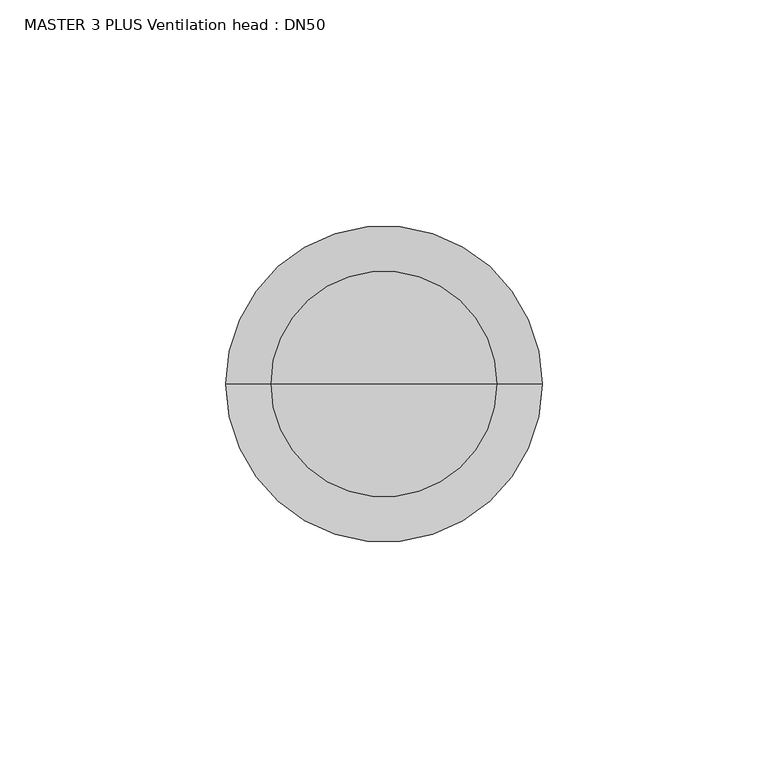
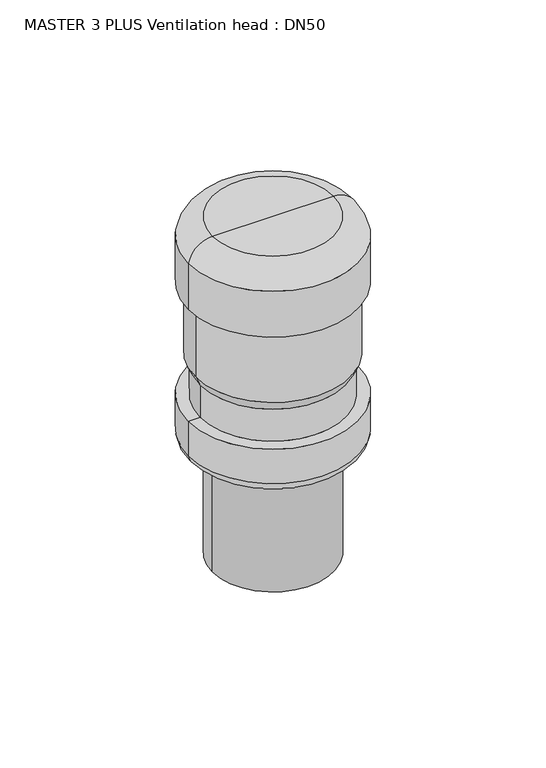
"""IFC4 building model written with IfcOpenShell, lengths in millimetres: valve geometry, MASTER 3 PLUS Ventilation head : DN50."""

from ifc_helpers import new_model, si_unit, point, frame, origin, origin_with_axes, place, context, project, spatial, polyline, circle_curve, ellipse_curve, trimmed, source, transform, mapped, element, save
from ifc_brep_helpers import plane_surface, cylinder_surface, revolved_surface, advanced_brep


def master_3_plus_ventilation_head_dn50_5158a1df(model_context):
    return source(origin(), model_context, "Body", "AdvancedBrep", [
        advanced_brep(
        [(-25.0, 0.0, 0.0), (25.0, 0.0, 0.0), (25.0, 0.0, 50.0), (-25.0, 0.0, 50.0), (25.0, 0.0, 147.0), (-25.0, 0.0, 147.0), (0.0, 0.0, 147.0), (35.0, 0.0, 138.5), (-35.0, 0.0, 138.5), (35.0, 0.0, 118.5), (-35.0, 0.0, 118.5), (32.0, 0.0, 118.5), (-32.0, 0.0, 118.5), (32.0, 0.0, 87.7890138), (-32.0, 0.0, 87.7890138), (30.0, 0.0, 83.5), (-30.0, 0.0, 83.5), (30.0, 0.0, 69.4369221), (-30.0, 0.0, 69.4369221), (35.0, 0.0, 69.4369221), (-35.0, 0.0, 69.4369221), (35.0, 0.0, 54.4), (-35.0, 0.0, 54.4), (30.6, 0.0, 50.0), (-30.6, 0.0, 50.0)],
        [
            (0, 1, circle_curve(frame((0.0, 0.0, 0.0), z_axis=(0.0, 0.0, -1.0), x_axis=(1.0, 0.0, 0.0)), 25.0)),
            (1, 0, circle_curve(frame((0.0, 0.0, 0.0), z_axis=(0.0, 0.0, -1.0), x_axis=(1.0, 0.0, 0.0)), 25.0)),
            (1, 2),
            (2, 3, circle_curve(frame((0.0, 0.0, 50.0), z_axis=(0.0, 0.0, -1.0), x_axis=(1.0, 0.0, 0.0)), 25.0)),
            (3, 0),
            (3, 2, circle_curve(frame((0.0, 0.0, 50.0), z_axis=(0.0, 0.0, -1.0), x_axis=(1.0, 0.0, 0.0)), 25.0)),
            (4, 5, circle_curve(frame((0.0, 0.0, 147.0), z_axis=(0.0, 0.0, 1.0), x_axis=(-1.0, 0.0, 0.0)), 25.0)),
            (5, 6),
            (6, 4),
            (5, 4, circle_curve(frame((0.0, 0.0, 147.0), z_axis=(0.0, 0.0, 1.0), x_axis=(-1.0, 0.0, 0.0)), 25.0)),
            (4, 7, circle_curve(frame((25.0, 0.0, 136.8676471), z_axis=(0.0, 1.0, 0.0), x_axis=(-1.0, 0.0, 0.0)), 10.1323529)),
            (7, 8, circle_curve(frame((0.0, 0.0, 138.5), z_axis=(0.0, 0.0, 1.0), x_axis=(-1.0, 0.0, 0.0)), 35.0)),
            (8, 5, circle_curve(frame((-25.0, 0.0, 136.8676471), z_axis=(0.0, 1.0, 0.0), x_axis=(1.0, 0.0, 0.0)), 10.1323529)),
            (8, 7, circle_curve(frame((0.0, 0.0, 138.5), z_axis=(0.0, 0.0, 1.0), x_axis=(-1.0, 0.0, 0.0)), 35.0)),
            (7, 9),
            (9, 10, circle_curve(frame((0.0, 0.0, 118.5), z_axis=(0.0, 0.0, 1.0), x_axis=(-1.0, 0.0, 0.0)), 35.0)),
            (10, 8),
            (10, 9, circle_curve(frame((0.0, 0.0, 118.5), z_axis=(0.0, 0.0, 1.0), x_axis=(-1.0, 0.0, 0.0)), 35.0)),
            (9, 11),
            (11, 12, circle_curve(frame((0.0, 0.0, 118.5), z_axis=(0.0, 0.0, 1.0), x_axis=(-1.0, 0.0, 0.0)), 32.0)),
            (12, 10),
            (12, 11, circle_curve(frame((0.0, 0.0, 118.5), z_axis=(0.0, 0.0, 1.0), x_axis=(-1.0, 0.0, 0.0)), 32.0)),
            (11, 13),
            (13, 14, circle_curve(frame((0.0, 0.0, 87.7890138), z_axis=(0.0, 0.0, 1.0), x_axis=(-1.0, 0.0, 0.0)), 32.0)),
            (14, 12),
            (14, 13, circle_curve(frame((0.0, 0.0, 87.7890138), z_axis=(0.0, 0.0, 1.0), x_axis=(-1.0, 0.0, 0.0)), 32.0)),
            (13, 15),
            (15, 16, circle_curve(frame((0.0, 0.0, 83.5), z_axis=(0.0, 0.0, 1.0), x_axis=(-1.0, 0.0, 0.0)), 30.0)),
            (16, 14),
            (16, 15, circle_curve(frame((0.0, 0.0, 83.5), z_axis=(0.0, 0.0, 1.0), x_axis=(-1.0, 0.0, 0.0)), 30.0)),
            (15, 17),
            (17, 18, circle_curve(frame((0.0, 0.0, 69.4369221), z_axis=(0.0, 0.0, 1.0), x_axis=(-1.0, 0.0, 0.0)), 30.0)),
            (18, 16),
            (18, 17, circle_curve(frame((0.0, 0.0, 69.4369221), z_axis=(0.0, 0.0, 1.0), x_axis=(-1.0, 0.0, 0.0)), 30.0)),
            (17, 19),
            (19, 20, circle_curve(frame((0.0, 0.0, 69.4369221), z_axis=(0.0, 0.0, 1.0), x_axis=(-1.0, 0.0, 0.0)), 35.0)),
            (20, 18),
            (20, 19, circle_curve(frame((0.0, 0.0, 69.4369221), z_axis=(0.0, 0.0, 1.0), x_axis=(-1.0, 0.0, 0.0)), 35.0)),
            (19, 21),
            (21, 22, circle_curve(frame((0.0, 0.0, 54.4), z_axis=(0.0, 0.0, 1.0), x_axis=(-1.0, 0.0, 0.0)), 35.0)),
            (22, 20),
            (22, 21, circle_curve(frame((0.0, 0.0, 54.4), z_axis=(0.0, 0.0, 1.0), x_axis=(-1.0, 0.0, 0.0)), 35.0)),
            (21, 23, circle_curve(frame((30.6, 0.0, 54.4), z_axis=(0.0, 1.0, 0.0), x_axis=(-1.0, 0.0, 0.0)), 4.4)),
            (23, 24, circle_curve(frame((0.0, 0.0, 50.0), z_axis=(0.0, 0.0, 1.0), x_axis=(-1.0, 0.0, 0.0)), 30.6)),
            (24, 22, circle_curve(frame((-30.6, 0.0, 54.4), z_axis=(0.0, 1.0, 0.0), x_axis=(1.0, 0.0, 0.0)), 4.4)),
            (24, 23, circle_curve(frame((0.0, 0.0, 50.0), z_axis=(0.0, 0.0, 1.0), x_axis=(-1.0, 0.0, 0.0)), 30.6)),
            (23, 2),
            (3, 24),
        ],
        [
            plane_surface(frame((25.0, 0.0, 0.0), z_axis=(0.0, 0.0, -1.0), x_axis=(0.0, -1.0, 0.0))),
            cylinder_surface(origin_with_axes(), 25.0),
            plane_surface(frame((0.0, 0.0, 147.0), z_axis=(0.0, 0.0, 1.0), x_axis=(-1.0, 0.0, 0.0))),
            revolved_surface(trimmed(ellipse_curve(frame((-25.0, 0.0, 136.8676471), z_axis=(0.0, -1.0, 0.0), x_axis=(1.0, 0.0, 0.0)), 10.1323529, 10.1323529), [point((-25.0, 0.0, 147.0))], [point((-35.0, 0.0, 138.5))], True, "CARTESIAN"), (0.0, 0.0, 147.0), (0.0, 0.0, -1.0)),
            cylinder_surface(frame((0.0, 0.0, 147.0), z_axis=(0.0, 0.0, -1.0), x_axis=(-1.0, 0.0, 0.0)), 35.0),
            plane_surface(frame((0.0, 0.0, 118.5), z_axis=(0.0, 0.0, -1.0), x_axis=(-1.0, 0.0, 0.0))),
            cylinder_surface(frame((0.0, 0.0, 147.0), z_axis=(0.0, 0.0, -1.0), x_axis=(-1.0, 0.0, 0.0)), 32.0),
            revolved_surface(polyline([(-32.0, 0.0, 87.7890138), (-30.0, 0.0, 83.5)]), (0.0, 0.0, 147.0), (0.0, 0.0, -1.0)),
            cylinder_surface(frame((0.0, 0.0, 147.0), z_axis=(0.0, 0.0, -1.0), x_axis=(-1.0, 0.0, 0.0)), 30.0),
            plane_surface(frame((0.0, 0.0, 69.4369221), z_axis=(0.0, 0.0, 1.0), x_axis=(-1.0, 0.0, 0.0))),
            revolved_surface(trimmed(ellipse_curve(frame((-30.6, 0.0, 54.4), z_axis=(0.0, -1.0, 0.0), x_axis=(1.0, 0.0, 0.0)), 4.4, 4.4), [point((-35.0, 0.0, 54.4))], [point((-30.6, 0.0, 50.0))], True, "CARTESIAN"), (0.0, 0.0, 147.0), (0.0, 0.0, -1.0)),
            plane_surface(frame((0.0, 0.0, 50.0), z_axis=(0.0, 0.0, -1.0), x_axis=(-1.0, 0.0, 0.0))),
        ],
        [
            (0, [[1, 2]]),
            (1, [[-2, 3, 4, 5]]),
            (1, [[-1, -5, 6, -3]]),
            (2, [[7, 8, 9]]),
            (2, [[-8, 10, -9]]),
            (3, [[-7, 11, 12, 13]]),
            (3, [[-10, -13, 14, -11]]),
            (4, [[-12, 15, 16, 17]]),
            (4, [[-14, -17, 18, -15]]),
            (5, [[-16, 19, 20, 21]]),
            (5, [[-18, -21, 22, -19]]),
            (6, [[-20, 23, 24, 25]]),
            (6, [[-22, -25, 26, -23]]),
            (7, [[-24, 27, 28, 29]]),
            (7, [[-26, -29, 30, -27]]),
            (8, [[-28, 31, 32, 33]]),
            (8, [[-30, -33, 34, -31]]),
            (9, [[-32, 35, 36, 37]]),
            (9, [[-34, -37, 38, -35]]),
            (4, [[-36, 39, 40, 41]]),
            (4, [[-38, -41, 42, -39]]),
            (10, [[-40, 43, 44, 45]]),
            (10, [[-42, -45, 46, -43]]),
            (11, [[-44, 47, -6, 48]]),
            (11, [[-46, -48, -4, -47]]),
        ],
    ),
    ])


if __name__ == "__main__":
    model = new_model("IFC4")
    model_context = context("Model", 3, world=origin())
    ifc_project = project(units=[si_unit("LENGTHUNIT", "METRE", prefix="MILLI")], contexts=[model_context])
    site = spatial("IfcSite", under=ifc_project)
    building = spatial("IfcBuilding", under=site)
    placement = place(None, origin())
    master_3_plus_ventilation_head_dn50_shape = master_3_plus_ventilation_head_dn50_5158a1df(model_context)
    element("IfcValve", 1, ObjectType="MASTER 3 PLUS Ventilation head : DN50", at=placement, inside=building, context=model_context, shape_type="MappedRepresentation", body=[
        mapped(master_3_plus_ventilation_head_dn50_shape, transform((0.0, 0.0, 0.0), x_axis=(1.0, 0.0, 0.0), y_axis=(0.0, 1.0, 0.0), z_axis=(0.0, 0.0, 1.0))),
    ])
    save(model, "model.ifc")
